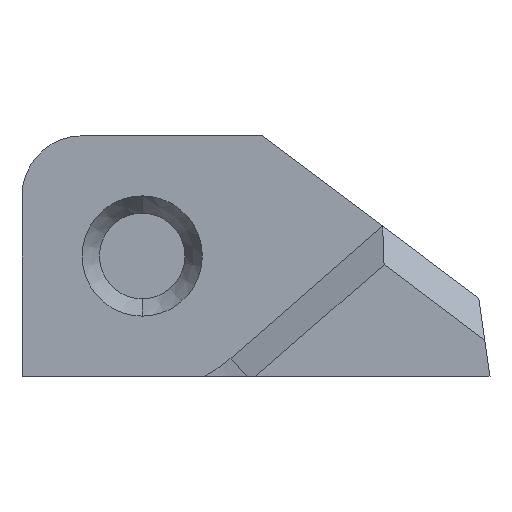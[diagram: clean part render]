
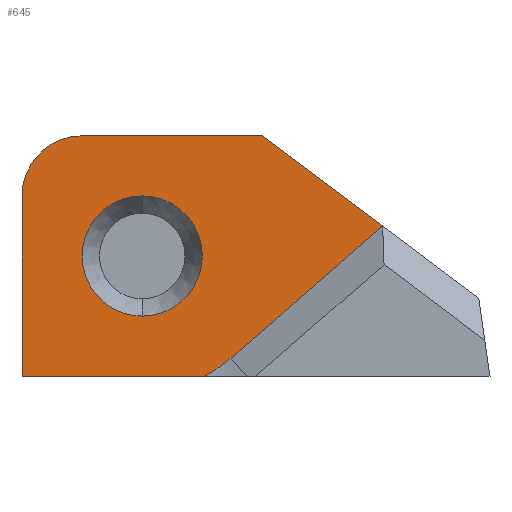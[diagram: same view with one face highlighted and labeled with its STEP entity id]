
A CAD part, left-side view. The second image highlights one B-rep face of the part: STEP entity #645.
In plain terms, the highlighted planar face has unit normal (-1, 0, 0).
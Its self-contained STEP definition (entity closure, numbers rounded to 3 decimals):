
#2 = PLANE ( 'NONE',  #422 ) ;
#5 = DIRECTION ( 'NONE',  ( 0., 0., -1. ) ) ;
#14 = AXIS2_PLACEMENT_3D ( 'NONE', #192, #242, #483 ) ;
#32 = EDGE_CURVE ( 'NONE', #525, #616, #759, .T. ) ;
#43 = CARTESIAN_POINT ( 'NONE',  ( -1., -2., 3. ) ) ;
#66 = CARTESIAN_POINT ( 'NONE',  ( -1., -1.35, -1.55 ) ) ;
#70 = ORIENTED_EDGE ( 'NONE', *, *, #536, .T. ) ;
#85 = CIRCLE ( 'NONE', #14, 1. ) ;
#99 = ORIENTED_EDGE ( 'NONE', *, *, #137, .F. ) ;
#108 = ORIENTED_EDGE ( 'NONE', *, *, #32, .F. ) ;
#128 = ORIENTED_EDGE ( 'NONE', *, *, #581, .T. ) ;
#131 = CARTESIAN_POINT ( 'NONE',  ( -1., 0., 0. ) ) ;
#137 = EDGE_CURVE ( 'NONE', #354, #413, #765, .T. ) ;
#151 = DIRECTION ( 'NONE',  ( 0., 1., 0. ) ) ;
#156 = DIRECTION ( 'NONE',  ( 0., -1., 0. ) ) ;
#168 = ORIENTED_EDGE ( 'NONE', *, *, #193, .F. ) ;
#173 = CARTESIAN_POINT ( 'NONE',  ( -1., 0., 4. ) ) ;
#182 = CIRCLE ( 'NONE', #350, 1. ) ;
#183 = DIRECTION ( 'NONE',  ( 1., 0., 0. ) ) ;
#187 = CARTESIAN_POINT ( 'NONE',  ( -1., -4., 4. ) ) ;
#192 = CARTESIAN_POINT ( 'NONE',  ( -1., -1., 3. ) ) ;
#193 = EDGE_CURVE ( 'NONE', #281, #525, #475, .T. ) ;
#232 = ORIENTED_EDGE ( 'NONE', *, *, #362, .F. ) ;
#242 = DIRECTION ( 'NONE',  ( -1., 0., 0. ) ) ;
#247 = DIRECTION ( 'NONE',  ( 1., 0., 0. ) ) ;
#273 = CARTESIAN_POINT ( 'NONE',  ( -1., 0., 0. ) ) ;
#281 = VERTEX_POINT ( 'NONE', #622 ) ;
#283 = VERTEX_POINT ( 'NONE', #495 ) ;
#286 = EDGE_CURVE ( 'NONE', #619, #283, #308, .T. ) ;
#296 = VECTOR ( 'NONE', #156, 1000. ) ;
#300 = FACE_OUTER_BOUND ( 'NONE', #480, .T. ) ;
#308 = CIRCLE ( 'NONE', #749, 1. ) ;
#334 = VECTOR ( 'NONE', #151, 1000. ) ;
#349 = VERTEX_POINT ( 'NONE', #667 ) ;
#350 = AXIS2_PLACEMENT_3D ( 'NONE', #768, #587, #659 ) ;
#352 = EDGE_LOOP ( 'NONE', ( #128, #418 ) ) ;
#354 = VERTEX_POINT ( 'NONE', #611 ) ;
#362 = EDGE_CURVE ( 'NONE', #413, #429, #568, .T. ) ;
#364 = DIRECTION ( 'NONE',  ( 0., 0., 1. ) ) ;
#366 = LINE ( 'NONE', #66, #382 ) ;
#371 = VECTOR ( 'NONE', #364, 1000. ) ;
#382 = VECTOR ( 'NONE', #605, 1000. ) ;
#413 = VERTEX_POINT ( 'NONE', #273 ) ;
#418 = ORIENTED_EDGE ( 'NONE', *, *, #286, .T. ) ;
#422 = AXIS2_PLACEMENT_3D ( 'NONE', #714, #526, #466 ) ;
#426 = CARTESIAN_POINT ( 'NONE',  ( -1., -2., 2. ) ) ;
#429 = VERTEX_POINT ( 'NONE', #452 ) ;
#431 = VECTOR ( 'NONE', #456, 1000. ) ;
#452 = CARTESIAN_POINT ( 'NONE',  ( -1., 0., 3. ) ) ;
#456 = DIRECTION ( 'NONE',  ( 0., -0.8, -0.6 ) ) ;
#465 = ORIENTED_EDGE ( 'NONE', *, *, #546, .T. ) ;
#466 = DIRECTION ( 'NONE',  ( 0., 0., -1. ) ) ;
#475 = LINE ( 'NONE', #173, #296 ) ;
#480 = EDGE_LOOP ( 'NONE', ( #168, #465, #232, #99, #608, #70, #108 ) ) ;
#483 = DIRECTION ( 'NONE',  ( 0., 0., 1. ) ) ;
#489 = DIRECTION ( 'NONE',  ( 0., 0., -1. ) ) ;
#491 = AXIS2_PLACEMENT_3D ( 'NONE', #426, #183, #5 ) ;
#495 = CARTESIAN_POINT ( 'NONE',  ( -1., -2., 1. ) ) ;
#499 = CARTESIAN_POINT ( 'NONE',  ( -1., -2., 2. ) ) ;
#521 = CARTESIAN_POINT ( 'NONE',  ( -1., -6., 2.5 ) ) ;
#522 = EDGE_CURVE ( 'NONE', #349, #354, #652, .T. ) ;
#525 = VERTEX_POINT ( 'NONE', #187 ) ;
#526 = DIRECTION ( 'NONE',  ( -1., 0., 0. ) ) ;
#531 = FACE_BOUND ( 'NONE', #352, .T. ) ;
#536 = EDGE_CURVE ( 'NONE', #349, #616, #366, .T. ) ;
#546 = EDGE_CURVE ( 'NONE', #281, #429, #85, .T. ) ;
#568 = LINE ( 'NONE', #131, #371 ) ;
#581 = EDGE_CURVE ( 'NONE', #283, #619, #182, .T. ) ;
#587 = DIRECTION ( 'NONE',  ( 1., 0., 0. ) ) ;
#605 = DIRECTION ( 'NONE',  ( 0., -0.754, 0.657 ) ) ;
#608 = ORIENTED_EDGE ( 'NONE', *, *, #522, .F. ) ;
#611 = CARTESIAN_POINT ( 'NONE',  ( -1., -3.031, 0. ) ) ;
#616 = VERTEX_POINT ( 'NONE', #521 ) ;
#619 = VERTEX_POINT ( 'NONE', #43 ) ;
#622 = CARTESIAN_POINT ( 'NONE',  ( -1., -1., 4. ) ) ;
#636 = CARTESIAN_POINT ( 'NONE',  ( -1., 0., 0. ) ) ;
#645 = ADVANCED_FACE ( 'NONE', ( #531, #300 ), #2, .T. ) ;
#652 = CIRCLE ( 'NONE', #491, 2.25 ) ;
#659 = DIRECTION ( 'NONE',  ( 0., 0., -1. ) ) ;
#667 = CARTESIAN_POINT ( 'NONE',  ( -1., -3.478, 0.303 ) ) ;
#714 = CARTESIAN_POINT ( 'NONE',  ( -1., 0., 0. ) ) ;
#749 = AXIS2_PLACEMENT_3D ( 'NONE', #499, #247, #489 ) ;
#759 = LINE ( 'NONE', #776, #431 ) ;
#765 = LINE ( 'NONE', #636, #334 ) ;
#768 = CARTESIAN_POINT ( 'NONE',  ( -1., -2., 2. ) ) ;
#776 = CARTESIAN_POINT ( 'NONE',  ( -1., -3.36, 4.48 ) ) ;
